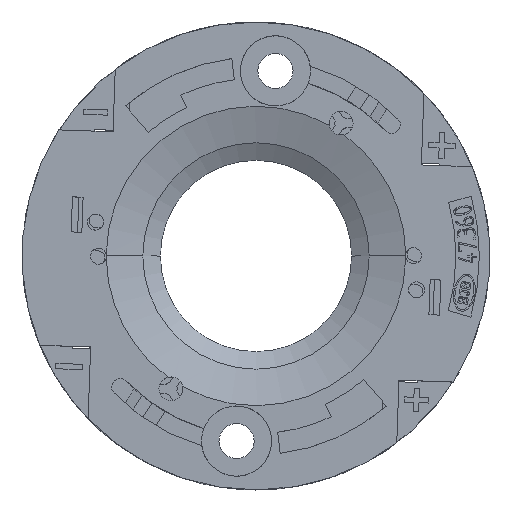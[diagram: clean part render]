
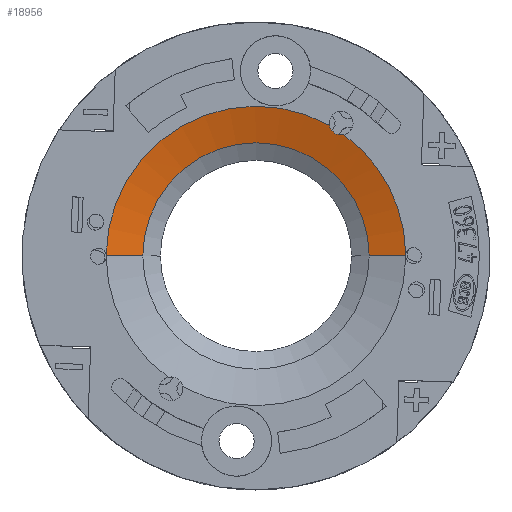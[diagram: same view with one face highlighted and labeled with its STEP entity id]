
A CAD part, top view. The second image highlights one B-rep face of the part: STEP entity #18956.
In plain terms, the highlighted free-form (B-spline) face has degree [7, 1] with [8, 2] control points.
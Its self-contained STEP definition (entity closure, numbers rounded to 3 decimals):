
#11596=CARTESIAN_POINT(' ',(-14.079,0.167,3.));
#11597=VERTEX_POINT(' ',#11596);
#11611=CARTESIAN_POINT(' ',(0.,0.,3.));
#11616=DIRECTION(' ',(0.,0.,-1.));
#11621=DIRECTION(' ',(-1.,0.012,0.));
#11626=AXIS2_PLACEMENT_3D(' ',#11611,#11616,#11621);
#11631=CIRCLE('',#11626,14.08);
#11636=CARTESIAN_POINT(' ',(6.898,12.274,3.));
#11637=VERTEX_POINT(' ',#11636);
#11641=EDGE_CURVE(' ',#11597,#11637,#11631,.T.);
#11751=CARTESIAN_POINT(' ',(8.257,11.405,3.));
#11752=VERTEX_POINT(' ',#11751);
#11766=CARTESIAN_POINT(' ',(-0.001,0.,3.));
#11771=DIRECTION(' ',(0.,0.,-1.));
#11776=DIRECTION(' ',(0.586,0.81,0.));
#11781=AXIS2_PLACEMENT_3D(' ',#11766,#11771,#11776);
#11786=CIRCLE('',#11781,14.081);
#11791=CARTESIAN_POINT(' ',(14.078,0.225,3.));
#11792=VERTEX_POINT(' ',#11791);
#11796=EDGE_CURVE(' ',#11752,#11792,#11786,.T.);
#18146=CARTESIAN_POINT(' ',(-14.053,0.,2.992));
#18151=DIRECTION(' ',(0.956,0.,-0.292));
#18156=VECTOR(' ',#18151,1.);
#18161=LINE('',#18146,#18156);
#18166=CARTESIAN_POINT(' ',(-14.053,0.,2.992));
#18167=VERTEX_POINT(' ',#18166);
#18171=CARTESIAN_POINT(' ',(-10.645,0.,1.95));
#18172=VERTEX_POINT(' ',#18171);
#18176=EDGE_CURVE(' ',#18167,#18172,#18161,.T.);
#18266=CARTESIAN_POINT(' ',(14.053,0.,2.992));
#18267=VERTEX_POINT(' ',#18266);
#18281=CARTESIAN_POINT(' ',(10.645,0.,1.95));
#18286=DIRECTION(' ',(0.956,0.,0.292));
#18291=VECTOR(' ',#18286,1.);
#18296=LINE('',#18281,#18291);
#18301=CARTESIAN_POINT(' ',(10.645,0.,1.95));
#18302=VERTEX_POINT(' ',#18301);
#18306=EDGE_CURVE(' ',#18302,#18267,#18296,.T.);
#18436=CARTESIAN_POINT(' ',(-14.734,-0.03,3.211));
#18441=DIRECTION(' ',(-0.306,-0.001,-0.952));
#18446=DIRECTION(' ',(0.915,0.276,-0.294));
#18451=AXIS2_PLACEMENT_3D(' ',#18436,#18441,#18446);
#18456=CIRCLE('',#18451,0.716);
#18461=EDGE_CURVE(' ',#11597,#18167,#18456,.T.);
#18731=CARTESIAN_POINT(' ',(14.08,0.,3.));
#18736=CARTESIAN_POINT(' ',(10.645,0.,1.95));
#18741=CARTESIAN_POINT(' ',(14.08,6.319,3.));
#18746=CARTESIAN_POINT(' ',(10.645,4.778,1.95));
#18751=CARTESIAN_POINT(' ',(10.77,12.632,3.));
#18756=CARTESIAN_POINT(' ',(8.143,9.551,1.95));
#18761=CARTESIAN_POINT(' ',(4.16,16.903,3.));
#18766=CARTESIAN_POINT(' ',(3.145,12.78,1.95));
#18771=CARTESIAN_POINT(' ',(-4.16,16.903,3.));
#18776=CARTESIAN_POINT(' ',(-3.145,12.78,1.95));
#18781=CARTESIAN_POINT(' ',(-10.77,12.632,3.));
#18786=CARTESIAN_POINT(' ',(-8.143,9.551,1.95));
#18791=CARTESIAN_POINT(' ',(-14.08,6.319,3.));
#18796=CARTESIAN_POINT(' ',(-10.645,4.778,1.95));
#18801=CARTESIAN_POINT(' ',(-14.08,0.,3.));
#18806=CARTESIAN_POINT(' ',(-10.645,0.,1.95));
#18811=B_SPLINE_SURFACE_WITH_KNOTS(' ',7,1,((#18731,#18736),(#18741,#18746),(#18751,#18756),(#18761,#18766),(#18771,#18776),(#18781,#18786),(#18791,#18796),(#18801,#18806)),.UNSPECIFIED.,.F.,.F.,.U.,(8,8),(2,2),(0.,1.),(0.,1.),.UNSPECIFIED.);
#18816=ORIENTED_EDGE(' ',*,*,#18176,.T.);
#18821=CARTESIAN_POINT(' ',(0.,0.,1.95));
#18826=DIRECTION(' ',(0.,0.,-1.));
#18831=DIRECTION(' ',(-1.,0.,0.));
#18836=AXIS2_PLACEMENT_3D(' ',#18821,#18826,#18831);
#18841=CIRCLE('',#18836,10.645);
#18846=EDGE_CURVE(' ',#18172,#18302,#18841,.T.);
#18851=ORIENTED_EDGE(' ',*,*,#18846,.T.);
#18856=ORIENTED_EDGE(' ',*,*,#18306,.T.);
#18861=CARTESIAN_POINT(' ',(14.734,0.03,3.211));
#18866=DIRECTION(' ',(0.306,0.001,-0.952));
#18871=DIRECTION(' ',(-0.951,-0.042,-0.306));
#18876=AXIS2_PLACEMENT_3D(' ',#18861,#18866,#18871);
#18881=CIRCLE('',#18876,0.716);
#18886=EDGE_CURVE(' ',#18267,#11792,#18881,.T.);
#18891=ORIENTED_EDGE(' ',*,*,#18886,.T.);
#18896=ORIENTED_EDGE(' ',*,*,#11796,.F.);
#18901=CARTESIAN_POINT(' ',(7.95,12.423,3.226));
#18906=DIRECTION(' ',(0.167,0.261,-0.951));
#18911=DIRECTION(' ',(0.282,-0.937,-0.208));
#18916=AXIS2_PLACEMENT_3D(' ',#18901,#18906,#18911);
#18921=CIRCLE('',#18916,1.087);
#18926=EDGE_CURVE(' ',#11752,#11637,#18921,.T.);
#18931=ORIENTED_EDGE(' ',*,*,#18926,.T.);
#18936=ORIENTED_EDGE(' ',*,*,#11641,.F.);
#18941=ORIENTED_EDGE(' ',*,*,#18461,.T.);
#18946=EDGE_LOOP(' ',(#18816,#18851,#18856,#18891,#18896,#18931,#18936,#18941));
#18951=FACE_OUTER_BOUND(' ',#18946,.T.);
#18956=ADVANCED_FACE('',(#18951),#18811,.T.);
